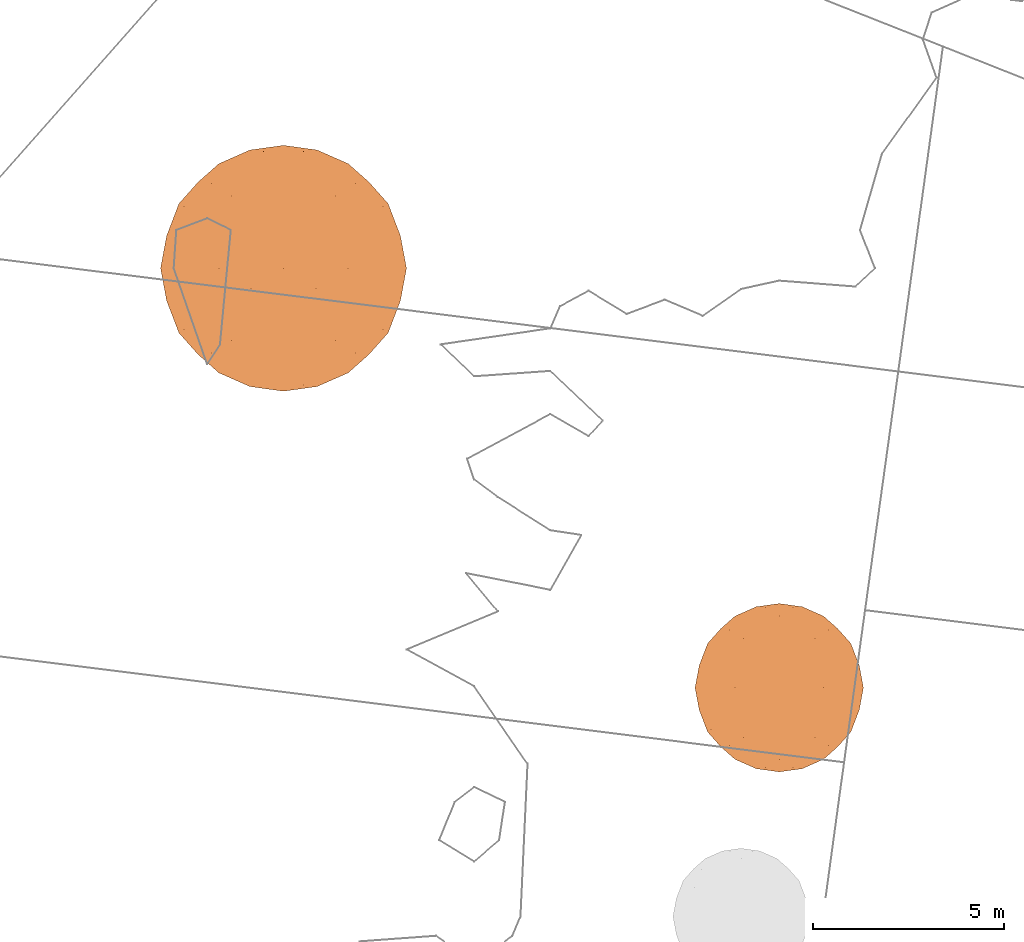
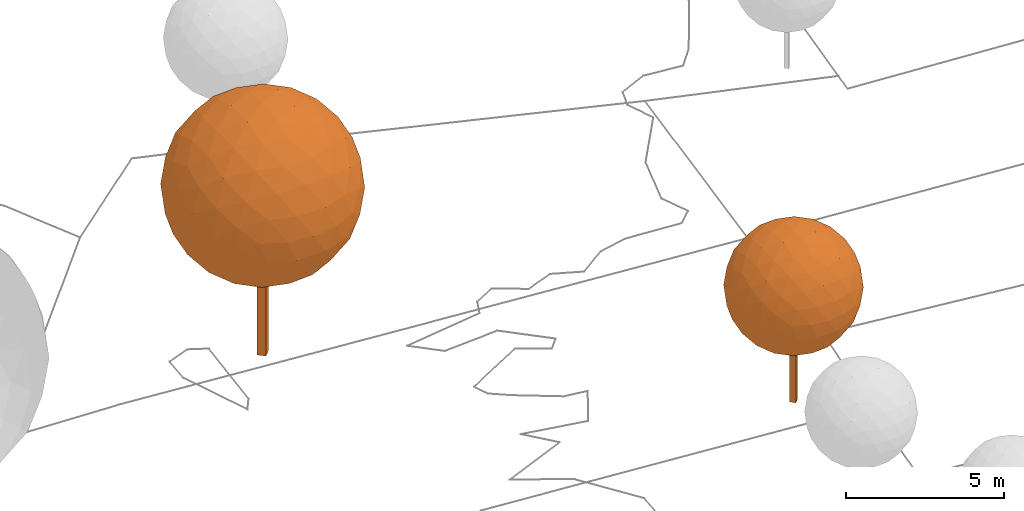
# Not in any storey, part 286 of 477: 2 geographic elements.
"""IFC4 model written with IfcOpenShell, lengths in metres."""

from ifc_helpers import new_model, si_unit, frame, origin_with_axes, place, context, subcontext, project, spatial, polygons, element, save


model = new_model("IFC4")

# Units and contexts
model_context = context("Model", 3, precision=1e-05, world=origin_with_axes())
body_context = subcontext(model_context, "Body", "Model", "MODEL_VIEW")
ifc_project = project(units=[si_unit("AREAUNIT", "SQUARE_METRE"), si_unit("LENGTHUNIT", "METRE")], contexts=[model_context])

# Sites
site_1_placement = place(None, origin_with_axes())
site_1 = spatial("IfcSite", under=ifc_project, at=site_1_placement, Name="Topoexport Site")
site_2_placement = place(site_1_placement, origin_with_axes())
site_2 = spatial("IfcSite", under=site_1, at=site_2_placement, Name="TPX_TREES")

# Geographic elements
geographic_element_1_placement = place(site_2_placement, frame((418.6777320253, 61.1707412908, 502.2394166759), z_axis=(0.0, 0.0, 1.0), x_axis=(1.0, 0.0, 0.0)))
element("IfcGeographicElement", 1, at=geographic_element_1_placement, inside=site_2, Name="Tree TR1 CD44", ObjectType="VEGETATION", PredefinedType="USERDEFINED", context=body_context, shape_type="Tessellation", body=[
    polygons([(0.0, -0.1405498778, 0.0), (-0.1405498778, 0.0, 0.0), (0.0, 0.1405498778, 0.0), (0.1405498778, 0.0, 0.0), (0.0, -0.1405498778, 4.4155046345), (-0.1405498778, 0.0, 4.4155046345), (0.0, 0.1405498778, 4.4155046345), (0.1405498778, 0.0, 4.4155046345)], [[[3, 4, 1]], [[1, 2, 3]], [[5, 8, 7]], [[7, 6, 5]], [[5, 6, 1]], [[1, 6, 2]], [[6, 7, 2]], [[2, 7, 3]], [[8, 5, 4]], [[4, 5, 1]], [[7, 8, 3]], [[3, 8, 4]]]),
    polygons([(-1.160684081, 1.8780262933, 4.4155046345), (1.160684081, 1.8780262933, 4.4155046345), (-1.160684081, -1.8780262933, 4.4155046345), (1.160684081, -1.8780262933, 4.4155046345), (0.0, -1.160684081, 6.2935309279), (0.0, 1.160684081, 6.2935309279), (0.0, -1.160684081, 2.5374783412), (0.0, 1.160684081, 2.5374783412), (1.8780262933, 0.0, 3.2548205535), (1.8780262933, 0.0, 5.5761887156), (-1.8780262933, 0.0, 3.2548205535), (-1.8780262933, 0.0, 5.5761887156), (0.0, 2.2077523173, 4.4155046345), (0.0, -2.2077523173, 4.4155046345), (-0.6822329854, -1.786109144, 5.5193807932), (0.6822329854, -1.786109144, 5.5193807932), (-0.6822329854, 1.786109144, 5.5193807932), (0.6822329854, 1.786109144, 5.5193807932), (0.0, 0.0, 6.6232569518), (-0.6822329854, -1.786109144, 3.3116284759), (0.6822329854, -1.786109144, 3.3116284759), (-0.6822329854, 1.786109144, 3.3116284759), (0.6822329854, 1.786109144, 3.3116284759), (0.0, 0.0, 2.2077523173), (1.786109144, 1.1038761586, 3.7332716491), (1.786109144, -1.1038761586, 3.7332716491), (1.1038761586, -0.6822329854, 2.6293954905), (1.1038761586, 0.6822329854, 2.6293954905), (1.786109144, 1.1038761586, 5.0977376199), (1.786109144, -1.1038761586, 5.0977376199), (1.1038761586, -0.6822329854, 6.2016137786), (1.1038761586, 0.6822329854, 6.2016137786), (2.2077523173, 0.0, 4.4155046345), (-1.786109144, 1.1038761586, 3.7332716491), (-1.786109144, -1.1038761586, 3.7332716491), (-1.1038761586, -0.6822329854, 2.6293954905), (-1.1038761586, 0.6822329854, 2.6293954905), (-1.786109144, 1.1038761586, 5.0977376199), (-1.786109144, -1.1038761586, 5.0977376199), (-1.1038761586, -0.6822329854, 6.2016137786), (-1.1038761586, 0.6822329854, 6.2016137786), (-2.2077523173, 0.0, 4.4155046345), (-0.6033048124, 2.1237216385, 4.4155046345), (0.6033048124, 2.1237216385, 4.4155046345), (-0.6033048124, -2.1237216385, 4.4155046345), (0.6033048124, -2.1237216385, 4.4155046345), (-0.9579184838, -1.9045583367, 4.9892816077), (-0.3546136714, -1.531695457, 5.9654492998), (-0.3586711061, -2.0996972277, 4.9958466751), (0.9579184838, -1.9045583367, 4.9892816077), (0.3546136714, -1.531695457, 5.9654492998), (0.3586711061, -2.0996972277, 4.9958466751), (0.0, -1.8780262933, 5.5761887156), (-0.9579184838, 1.9045583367, 4.9892816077), (-0.3546136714, 1.531695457, 5.9654492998), (-0.3586711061, 2.0996972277, 4.9958466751), (0.9579184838, 1.9045583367, 4.9892816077), (0.3546136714, 1.531695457, 5.9654492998), (0.3586711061, 2.0996972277, 4.9958466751), (0.0, 1.8780262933, 5.5761887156), (0.0, -0.6033048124, 6.539226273), (0.0, 0.6033048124, 6.539226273), (-0.9579184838, -1.9045583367, 3.8417276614), (-0.3546136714, -1.531695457, 2.8655599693), (-0.3586711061, -2.0996972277, 3.835162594), (0.9579184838, -1.9045583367, 3.8417276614), (0.3546136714, -1.531695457, 2.8655599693), (0.3586711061, -2.0996972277, 3.835162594), (0.0, -1.8780262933, 3.2548205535), (-0.9579184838, 1.9045583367, 3.8417276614), (-0.3546136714, 1.531695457, 2.8655599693), (-0.3586711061, 2.0996972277, 3.835162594), (0.9579184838, 1.9045583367, 3.8417276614), (0.3546136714, 1.531695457, 2.8655599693), (0.3586711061, 2.0996972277, 3.835162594), (0.0, 1.8780262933, 3.2548205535), (0.0, -0.6033048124, 2.2917829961), (0.0, 0.6033048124, 2.2917829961), (1.531695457, 1.5499446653, 4.0608909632), (1.9045583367, 0.5737769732, 3.4575861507), (1.2976842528, 1.5193551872, 3.4764914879), (1.531695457, -1.5499446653, 4.0608909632), (1.9045583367, -0.5737769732, 3.4575861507), (1.2976842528, -1.5193551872, 3.4764914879), (0.5737769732, -0.9579184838, 2.5109462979), (1.5499446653, -0.3546136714, 2.8838091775), (0.9390131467, -1.2976842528, 2.8961494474), (0.5803420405, -0.3586711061, 2.3158074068), (1.5193551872, -0.9390131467, 3.1178203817), (0.5737769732, 0.9579184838, 2.5109462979), (1.5499446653, 0.3546136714, 2.8838091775), (0.9390131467, 1.2976842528, 2.8961494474), (0.5803420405, 0.3586711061, 2.3158074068), (1.5193551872, 0.9390131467, 3.1178203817), (1.160684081, 0.0, 2.5374783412), (1.531695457, 1.5499446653, 4.7701183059), (1.9045583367, 0.5737769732, 5.3734231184), (1.2976842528, 1.5193551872, 5.3545177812), (1.8780262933, 1.160684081, 4.4155046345), (1.531695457, -1.5499446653, 4.7701183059), (1.9045583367, -0.5737769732, 5.3734231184), (1.2976842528, -1.5193551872, 5.3545177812), (1.8780262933, -1.160684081, 4.4155046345), (0.5737769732, -0.9579184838, 6.3200629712), (1.5499446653, -0.3546136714, 5.9472000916), (0.9390131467, -1.2976842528, 5.9348598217), (0.5803420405, -0.3586711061, 6.5152018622), (1.5193551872, -0.9390131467, 5.7131888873), (0.5737769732, 0.9579184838, 6.3200629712), (1.5499446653, 0.3546136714, 5.9472000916), (0.9390131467, 1.2976842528, 5.9348598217), (0.5803420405, 0.3586711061, 6.5152018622), (1.5193551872, 0.9390131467, 5.7131888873), (1.160684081, 0.0, 6.2935309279), (2.1237216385, 0.0, 3.8121998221), (2.1237216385, 0.0, 5.018809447), (2.0996972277, 0.5803420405, 4.0568335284), (2.0996972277, -0.5803420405, 4.0568335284), (2.0996972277, 0.5803420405, 4.7741757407), (2.0996972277, -0.5803420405, 4.7741757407), (-1.531695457, 1.5499446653, 4.0608909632), (-1.9045583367, 0.5737769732, 3.4575861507), (-1.2976842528, 1.5193551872, 3.4764914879), (-1.531695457, -1.5499446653, 4.0608909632), (-1.9045583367, -0.5737769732, 3.4575861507), (-1.2976842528, -1.5193551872, 3.4764914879), (-0.5737769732, -0.9579184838, 2.5109462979), (-1.5499446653, -0.3546136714, 2.8838091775), (-0.9390131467, -1.2976842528, 2.8961494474), (-0.5803420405, -0.3586711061, 2.3158074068), (-1.5193551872, -0.9390131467, 3.1178203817), (-0.5737769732, 0.9579184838, 2.5109462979), (-1.5499446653, 0.3546136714, 2.8838091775), (-0.9390131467, 1.2976842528, 2.8961494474), (-0.5803420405, 0.3586711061, 2.3158074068), (-1.5193551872, 0.9390131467, 3.1178203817), (-1.160684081, 0.0, 2.5374783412), (-1.531695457, 1.5499446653, 4.7701183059), (-1.9045583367, 0.5737769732, 5.3734231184), (-1.2976842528, 1.5193551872, 5.3545177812), (-1.8780262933, 1.160684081, 4.4155046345), (-1.531695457, -1.5499446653, 4.7701183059), (-1.9045583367, -0.5737769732, 5.3734231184), (-1.2976842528, -1.5193551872, 5.3545177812), (-1.8780262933, -1.160684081, 4.4155046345), (-0.5737769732, -0.9579184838, 6.3200629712), (-1.5499446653, -0.3546136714, 5.9472000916), (-0.9390131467, -1.2976842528, 5.9348598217), (-0.5803420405, -0.3586711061, 6.5152018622), (-1.5193551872, -0.9390131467, 5.7131888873), (-0.5737769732, 0.9579184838, 6.3200629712), (-1.5499446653, 0.3546136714, 5.9472000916), (-0.9390131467, 1.2976842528, 5.9348598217), (-0.5803420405, 0.3586711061, 6.5152018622), (-1.5193551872, 0.9390131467, 5.7131888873), (-1.160684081, 0.0, 6.2935309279), (-2.1237216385, 0.0, 3.8121998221), (-2.1237216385, 0.0, 5.018809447), (-2.0996972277, 0.5803420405, 4.0568335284), (-2.0996972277, -0.5803420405, 4.0568335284), (-2.0996972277, 0.5803420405, 4.7741757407), (-2.0996972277, -0.5803420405, 4.7741757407)], [[[1, 138, 54]], [[138, 38, 140]], [[54, 140, 17]], [[138, 140, 54]], [[38, 139, 155]], [[139, 12, 152]], [[155, 152, 41]], [[139, 152, 155]], [[17, 153, 55]], [[153, 41, 151]], [[55, 151, 6]], [[153, 151, 55]], [[38, 155, 140]], [[155, 41, 153]], [[140, 153, 17]], [[155, 153, 140]], [[1, 54, 43]], [[54, 17, 56]], [[43, 56, 13]], [[54, 56, 43]], [[17, 55, 60]], [[55, 6, 58]], [[60, 58, 18]], [[55, 58, 60]], [[13, 59, 44]], [[59, 18, 57]], [[44, 57, 2]], [[59, 57, 44]], [[17, 60, 56]], [[60, 18, 59]], [[56, 59, 13]], [[60, 59, 56]], [[1, 43, 70]], [[43, 13, 72]], [[70, 72, 22]], [[43, 72, 70]], [[13, 44, 75]], [[44, 2, 73]], [[75, 73, 23]], [[44, 73, 75]], [[22, 76, 71]], [[76, 23, 74]], [[71, 74, 8]], [[76, 74, 71]], [[13, 75, 72]], [[75, 23, 76]], [[72, 76, 22]], [[75, 76, 72]], [[1, 70, 121]], [[70, 22, 123]], [[121, 123, 34]], [[70, 123, 121]], [[22, 71, 134]], [[71, 8, 132]], [[134, 132, 37]], [[71, 132, 134]], [[34, 136, 122]], [[136, 37, 133]], [[122, 133, 11]], [[136, 133, 122]], [[22, 134, 123]], [[134, 37, 136]], [[123, 136, 34]], [[134, 136, 123]], [[1, 121, 138]], [[121, 34, 141]], [[138, 141, 38]], [[121, 141, 138]], [[34, 122, 159]], [[122, 11, 157]], [[159, 157, 42]], [[122, 157, 159]], [[38, 161, 139]], [[161, 42, 158]], [[139, 158, 12]], [[161, 158, 139]], [[34, 159, 141]], [[159, 42, 161]], [[141, 161, 38]], [[159, 161, 141]], [[2, 57, 96]], [[57, 18, 98]], [[96, 98, 29]], [[57, 98, 96]], [[18, 58, 111]], [[58, 6, 109]], [[111, 109, 32]], [[58, 109, 111]], [[29, 113, 97]], [[113, 32, 110]], [[97, 110, 10]], [[113, 110, 97]], [[18, 111, 98]], [[111, 32, 113]], [[98, 113, 29]], [[111, 113, 98]], [[6, 151, 62]], [[151, 41, 154]], [[62, 154, 19]], [[151, 154, 62]], [[41, 152, 156]], [[152, 12, 147]], [[156, 147, 40]], [[152, 147, 156]], [[19, 149, 61]], [[149, 40, 146]], [[61, 146, 5]], [[149, 146, 61]], [[41, 156, 154]], [[156, 40, 149]], [[154, 149, 19]], [[156, 149, 154]], [[12, 158, 143]], [[158, 42, 162]], [[143, 162, 39]], [[158, 162, 143]], [[42, 157, 160]], [[157, 11, 125]], [[160, 125, 35]], [[157, 125, 160]], [[39, 145, 142]], [[145, 35, 124]], [[142, 124, 3]], [[145, 124, 142]], [[42, 160, 162]], [[160, 35, 145]], [[162, 145, 39]], [[160, 145, 162]], [[11, 133, 128]], [[133, 37, 137]], [[128, 137, 36]], [[133, 137, 128]], [[37, 132, 135]], [[132, 8, 78]], [[135, 78, 24]], [[132, 78, 135]], [[36, 130, 127]], [[130, 24, 77]], [[127, 77, 7]], [[130, 77, 127]], [[37, 135, 137]], [[135, 24, 130]], [[137, 130, 36]], [[135, 130, 137]], [[8, 74, 90]], [[74, 23, 92]], [[90, 92, 28]], [[74, 92, 90]], [[23, 73, 81]], [[73, 2, 79]], [[81, 79, 25]], [[73, 79, 81]], [[28, 94, 91]], [[94, 25, 80]], [[91, 80, 9]], [[94, 80, 91]], [[23, 81, 92]], [[81, 25, 94]], [[92, 94, 28]], [[81, 94, 92]], [[4, 100, 50]], [[100, 30, 102]], [[50, 102, 16]], [[100, 102, 50]], [[30, 101, 108]], [[101, 10, 105]], [[108, 105, 31]], [[101, 105, 108]], [[16, 106, 51]], [[106, 31, 104]], [[51, 104, 5]], [[106, 104, 51]], [[30, 108, 102]], [[108, 31, 106]], [[102, 106, 16]], [[108, 106, 102]], [[4, 50, 46]], [[50, 16, 52]], [[46, 52, 14]], [[50, 52, 46]], [[16, 51, 53]], [[51, 5, 48]], [[53, 48, 15]], [[51, 48, 53]], [[14, 49, 45]], [[49, 15, 47]], [[45, 47, 3]], [[49, 47, 45]], [[16, 53, 52]], [[53, 15, 49]], [[52, 49, 14]], [[53, 49, 52]], [[4, 46, 66]], [[46, 14, 68]], [[66, 68, 21]], [[46, 68, 66]], [[14, 45, 65]], [[45, 3, 63]], [[65, 63, 20]], [[45, 63, 65]], [[21, 69, 67]], [[69, 20, 64]], [[67, 64, 7]], [[69, 64, 67]], [[14, 65, 68]], [[65, 20, 69]], [[68, 69, 21]], [[65, 69, 68]], [[4, 66, 82]], [[66, 21, 84]], [[82, 84, 26]], [[66, 84, 82]], [[21, 67, 87]], [[67, 7, 85]], [[87, 85, 27]], [[67, 85, 87]], [[26, 89, 83]], [[89, 27, 86]], [[83, 86, 9]], [[89, 86, 83]], [[21, 87, 84]], [[87, 27, 89]], [[84, 89, 26]], [[87, 89, 84]], [[4, 82, 100]], [[82, 26, 103]], [[100, 103, 30]], [[82, 103, 100]], [[26, 83, 118]], [[83, 9, 115]], [[118, 115, 33]], [[83, 115, 118]], [[30, 120, 101]], [[120, 33, 116]], [[101, 116, 10]], [[120, 116, 101]], [[26, 118, 103]], [[118, 33, 120]], [[103, 120, 30]], [[118, 120, 103]], [[5, 104, 61]], [[104, 31, 107]], [[61, 107, 19]], [[104, 107, 61]], [[31, 105, 114]], [[105, 10, 110]], [[114, 110, 32]], [[105, 110, 114]], [[19, 112, 62]], [[112, 32, 109]], [[62, 109, 6]], [[112, 109, 62]], [[31, 114, 107]], [[114, 32, 112]], [[107, 112, 19]], [[114, 112, 107]], [[3, 47, 142]], [[47, 15, 144]], [[142, 144, 39]], [[47, 144, 142]], [[15, 48, 148]], [[48, 5, 146]], [[148, 146, 40]], [[48, 146, 148]], [[39, 150, 143]], [[150, 40, 147]], [[143, 147, 12]], [[150, 147, 143]], [[15, 148, 144]], [[148, 40, 150]], [[144, 150, 39]], [[148, 150, 144]], [[7, 64, 127]], [[64, 20, 129]], [[127, 129, 36]], [[64, 129, 127]], [[20, 63, 126]], [[63, 3, 124]], [[126, 124, 35]], [[63, 124, 126]], [[36, 131, 128]], [[131, 35, 125]], [[128, 125, 11]], [[131, 125, 128]], [[20, 126, 129]], [[126, 35, 131]], [[129, 131, 36]], [[126, 131, 129]], [[9, 86, 91]], [[86, 27, 95]], [[91, 95, 28]], [[86, 95, 91]], [[27, 85, 88]], [[85, 7, 77]], [[88, 77, 24]], [[85, 77, 88]], [[28, 93, 90]], [[93, 24, 78]], [[90, 78, 8]], [[93, 78, 90]], [[27, 88, 95]], [[88, 24, 93]], [[95, 93, 28]], [[88, 93, 95]], [[10, 116, 97]], [[116, 33, 119]], [[97, 119, 29]], [[116, 119, 97]], [[33, 115, 117]], [[115, 9, 80]], [[117, 80, 25]], [[115, 80, 117]], [[29, 99, 96]], [[99, 25, 79]], [[96, 79, 2]], [[99, 79, 96]], [[33, 117, 119]], [[117, 25, 99]], [[119, 99, 29]], [[117, 99, 119]]]),
])
geographic_element_2_placement = place(site_2_placement, frame((405.6777320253, 72.1707409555, 501.9603647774), z_axis=(0.0, 0.0, 1.0), x_axis=(1.0, 0.0, 0.0)))
element("IfcGeographicElement", 2, at=geographic_element_2_placement, inside=site_2, Name="Tree TR2 CD64", ObjectType="VEGETATION", PredefinedType="USERDEFINED", context=body_context, shape_type="Tessellation", body=[
    polygons([(0.0, -0.2052875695, 0.0), (-0.2052875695, 0.0, 0.0), (0.0, 0.2052875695, 0.0), (0.2052875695, 0.0, 0.0), (0.0, -0.2052875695, 6.4492992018), (-0.2052875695, 0.0, 6.4492992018), (0.0, 0.2052875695, 6.4492992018), (0.2052875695, 0.0, 6.4492992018)], [[[3, 4, 1]], [[1, 2, 3]], [[5, 8, 7]], [[7, 6, 5]], [[5, 6, 1]], [[1, 6, 2]], [[6, 7, 2]], [[2, 7, 3]], [[8, 5, 4]], [[4, 5, 1]], [[7, 8, 3]], [[3, 8, 4]]]),
    polygons([(-1.6952986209, 2.7430507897, 6.4492992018), (1.6952986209, 2.7430507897, 6.4492992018), (-1.6952986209, -2.7430507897, 6.4492992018), (1.6952986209, -2.7430507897, 6.4492992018), (0.0, -1.6952986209, 9.1923499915), (0.0, 1.6952986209, 9.1923499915), (0.0, -1.6952986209, 3.7062484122), (0.0, 1.6952986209, 3.7062484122), (2.7430507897, 0.0, 4.754000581), (2.7430507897, 0.0, 8.1445978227), (-2.7430507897, 0.0, 4.754000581), (-2.7430507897, 0.0, 8.1445978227), (0.0, 3.2246496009, 6.4492992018), (0.0, -3.2246496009, 6.4492992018), (-0.9964715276, -2.608796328, 8.0616240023), (0.9964715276, -2.608796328, 8.0616240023), (-0.9964715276, 2.608796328, 8.0616240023), (0.9964715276, 2.608796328, 8.0616240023), (0.0, 0.0, 9.6739488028), (-0.9964715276, -2.608796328, 4.8369744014), (0.9964715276, -2.608796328, 4.8369744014), (-0.9964715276, 2.608796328, 4.8369744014), (0.9964715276, 2.608796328, 4.8369744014), (0.0, 0.0, 3.2246496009), (2.608796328, 1.6123248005, 5.4528276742), (2.608796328, -1.6123248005, 5.4528276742), (1.6123248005, -0.9964715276, 3.8405028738), (1.6123248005, 0.9964715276, 3.8405028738), (2.608796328, 1.6123248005, 7.4457707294), (2.608796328, -1.6123248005, 7.4457707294), (1.6123248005, -0.9964715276, 9.0580955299), (1.6123248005, 0.9964715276, 9.0580955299), (3.2246496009, 0.0, 6.4492992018), (-2.608796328, 1.6123248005, 5.4528276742), (-2.608796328, -1.6123248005, 5.4528276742), (-1.6123248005, -0.9964715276, 3.8405028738), (-1.6123248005, 0.9964715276, 3.8405028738), (-2.608796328, 1.6123248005, 7.4457707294), (-2.608796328, -1.6123248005, 7.4457707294), (-1.6123248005, -0.9964715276, 9.0580955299), (-1.6123248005, 0.9964715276, 9.0580955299), (-3.2246496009, 0.0, 6.4492992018), (-0.8811888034, 3.1019141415, 6.4492992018), (0.8811888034, 3.1019141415, 6.4492992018), (-0.8811888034, -3.1019141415, 6.4492992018), (0.8811888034, -3.1019141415, 6.4492992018), (-1.3991385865, -2.7818035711, 7.2873595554), (-0.5179497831, -2.2371989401, 8.7131529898), (-0.5238760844, -3.0668240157, 7.2969485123), (1.3991385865, -2.7818035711, 7.2873595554), (0.5179497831, -2.2371989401, 8.7131529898), (0.5238760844, -3.0668240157, 7.2969485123), (0.0, -2.7430507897, 8.1445978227), (-1.3991385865, 2.7818035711, 7.2873595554), (-0.5179497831, 2.2371989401, 8.7131529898), (-0.5238760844, 3.0668240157, 7.2969485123), (1.3991385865, 2.7818035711, 7.2873595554), (0.5179497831, 2.2371989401, 8.7131529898), (0.5238760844, 3.0668240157, 7.2969485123), (0.0, 2.7430507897, 8.1445978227), (0.0, -0.8811888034, 9.5512133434), (0.0, 0.8811888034, 9.5512133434), (-1.3991385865, -2.7818035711, 5.6112388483), (-0.5179497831, -2.2371989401, 4.1854454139), (-0.5238760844, -3.0668240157, 5.6016498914), (1.3991385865, -2.7818035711, 5.6112388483), (0.5179497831, -2.2371989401, 4.1854454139), (0.5238760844, -3.0668240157, 5.6016498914), (0.0, -2.7430507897, 4.754000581), (-1.3991385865, 2.7818035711, 5.6112388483), (-0.5179497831, 2.2371989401, 4.1854454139), (-0.5238760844, 3.0668240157, 5.6016498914), (1.3991385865, 2.7818035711, 5.6112388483), (0.5179497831, 2.2371989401, 4.1854454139), (0.5238760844, 3.0668240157, 5.6016498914), (0.0, 2.7430507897, 4.754000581), (0.0, -0.8811888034, 3.3473850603), (0.0, 0.8811888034, 3.3473850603), (2.2371989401, 2.263853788, 5.9313494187), (2.7818035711, 0.8380603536, 5.0501606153), (1.8954014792, 2.2191747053, 5.077773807), (2.2371989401, -2.263853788, 5.9313494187), (2.7818035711, -0.8380603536, 5.0501606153), (1.8954014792, -2.2191747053, 5.077773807), (0.8380603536, -1.3991385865, 3.6674956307), (2.263853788, -0.5179497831, 4.2121002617), (1.3715253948, -1.8954014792, 4.2301244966), (0.8476493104, -0.5238760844, 3.3824751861), (2.2191747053, -1.3715253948, 4.5538977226), (0.8380603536, 1.3991385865, 3.6674956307), (2.263853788, 0.5179497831, 4.2121002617), (1.3715253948, 1.8954014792, 4.2301244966), (0.8476493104, 0.5238760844, 3.3824751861), (2.2191747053, 1.3715253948, 4.5538977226), (1.6952986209, 0.0, 3.7062484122), (2.2371989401, 2.263853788, 6.967248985), (2.7818035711, 0.8380603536, 7.8484377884), (1.8954014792, 2.2191747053, 7.8208245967), (2.7430507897, 1.6952986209, 6.4492992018), (2.2371989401, -2.263853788, 6.967248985), (2.7818035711, -0.8380603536, 7.8484377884), (1.8954014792, -2.2191747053, 7.8208245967), (2.7430507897, -1.6952986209, 6.4492992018), (0.8380603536, -1.3991385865, 9.2311027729), (2.263853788, -0.5179497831, 8.6864981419), (1.3715253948, -1.8954014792, 8.6684739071), (0.8476493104, -0.5238760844, 9.5161232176), (2.2191747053, -1.3715253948, 8.3447006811), (0.8380603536, 1.3991385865, 9.2311027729), (2.263853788, 0.5179497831, 8.6864981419), (1.3715253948, 1.8954014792, 8.6684739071), (0.8476493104, 0.5238760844, 9.5161232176), (2.2191747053, 1.3715253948, 8.3447006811), (1.6952986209, 0.0, 9.1923499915), (3.1019141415, 0.0, 5.5681103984), (3.1019141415, 0.0, 7.3304880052), (3.0668240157, 0.8476493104, 5.9254231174), (3.0668240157, -0.8476493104, 5.9254231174), (3.0668240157, 0.8476493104, 6.9731752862), (3.0668240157, -0.8476493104, 6.9731752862), (-2.2371989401, 2.263853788, 5.9313494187), (-2.7818035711, 0.8380603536, 5.0501606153), (-1.8954014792, 2.2191747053, 5.077773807), (-2.2371989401, -2.263853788, 5.9313494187), (-2.7818035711, -0.8380603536, 5.0501606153), (-1.8954014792, -2.2191747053, 5.077773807), (-0.8380603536, -1.3991385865, 3.6674956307), (-2.263853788, -0.5179497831, 4.2121002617), (-1.3715253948, -1.8954014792, 4.2301244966), (-0.8476493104, -0.5238760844, 3.3824751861), (-2.2191747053, -1.3715253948, 4.5538977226), (-0.8380603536, 1.3991385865, 3.6674956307), (-2.263853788, 0.5179497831, 4.2121002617), (-1.3715253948, 1.8954014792, 4.2301244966), (-0.8476493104, 0.5238760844, 3.3824751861), (-2.2191747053, 1.3715253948, 4.5538977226), (-1.6952986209, 0.0, 3.7062484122), (-2.2371989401, 2.263853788, 6.967248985), (-2.7818035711, 0.8380603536, 7.8484377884), (-1.8954014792, 2.2191747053, 7.8208245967), (-2.7430507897, 1.6952986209, 6.4492992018), (-2.2371989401, -2.263853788, 6.967248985), (-2.7818035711, -0.8380603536, 7.8484377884), (-1.8954014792, -2.2191747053, 7.8208245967), (-2.7430507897, -1.6952986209, 6.4492992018), (-0.8380603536, -1.3991385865, 9.2311027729), (-2.263853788, -0.5179497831, 8.6864981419), (-1.3715253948, -1.8954014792, 8.6684739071), (-0.8476493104, -0.5238760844, 9.5161232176), (-2.2191747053, -1.3715253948, 8.3447006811), (-0.8380603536, 1.3991385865, 9.2311027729), (-2.263853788, 0.5179497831, 8.6864981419), (-1.3715253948, 1.8954014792, 8.6684739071), (-0.8476493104, 0.5238760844, 9.5161232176), (-2.2191747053, 1.3715253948, 8.3447006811), (-1.6952986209, 0.0, 9.1923499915), (-3.1019141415, 0.0, 5.5681103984), (-3.1019141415, 0.0, 7.3304880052), (-3.0668240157, 0.8476493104, 5.9254231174), (-3.0668240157, -0.8476493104, 5.9254231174), (-3.0668240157, 0.8476493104, 6.9731752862), (-3.0668240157, -0.8476493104, 6.9731752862)], [[[1, 138, 54]], [[138, 38, 140]], [[54, 140, 17]], [[138, 140, 54]], [[38, 139, 155]], [[139, 12, 152]], [[155, 152, 41]], [[139, 152, 155]], [[17, 153, 55]], [[153, 41, 151]], [[55, 151, 6]], [[153, 151, 55]], [[38, 155, 140]], [[155, 41, 153]], [[140, 153, 17]], [[155, 153, 140]], [[1, 54, 43]], [[54, 17, 56]], [[43, 56, 13]], [[54, 56, 43]], [[17, 55, 60]], [[55, 6, 58]], [[60, 58, 18]], [[55, 58, 60]], [[13, 59, 44]], [[59, 18, 57]], [[44, 57, 2]], [[59, 57, 44]], [[17, 60, 56]], [[60, 18, 59]], [[56, 59, 13]], [[60, 59, 56]], [[1, 43, 70]], [[43, 13, 72]], [[70, 72, 22]], [[43, 72, 70]], [[13, 44, 75]], [[44, 2, 73]], [[75, 73, 23]], [[44, 73, 75]], [[22, 76, 71]], [[76, 23, 74]], [[71, 74, 8]], [[76, 74, 71]], [[13, 75, 72]], [[75, 23, 76]], [[72, 76, 22]], [[75, 76, 72]], [[1, 70, 121]], [[70, 22, 123]], [[121, 123, 34]], [[70, 123, 121]], [[22, 71, 134]], [[71, 8, 132]], [[134, 132, 37]], [[71, 132, 134]], [[34, 136, 122]], [[136, 37, 133]], [[122, 133, 11]], [[136, 133, 122]], [[22, 134, 123]], [[134, 37, 136]], [[123, 136, 34]], [[134, 136, 123]], [[1, 121, 138]], [[121, 34, 141]], [[138, 141, 38]], [[121, 141, 138]], [[34, 122, 159]], [[122, 11, 157]], [[159, 157, 42]], [[122, 157, 159]], [[38, 161, 139]], [[161, 42, 158]], [[139, 158, 12]], [[161, 158, 139]], [[34, 159, 141]], [[159, 42, 161]], [[141, 161, 38]], [[159, 161, 141]], [[2, 57, 96]], [[57, 18, 98]], [[96, 98, 29]], [[57, 98, 96]], [[18, 58, 111]], [[58, 6, 109]], [[111, 109, 32]], [[58, 109, 111]], [[29, 113, 97]], [[113, 32, 110]], [[97, 110, 10]], [[113, 110, 97]], [[18, 111, 98]], [[111, 32, 113]], [[98, 113, 29]], [[111, 113, 98]], [[6, 151, 62]], [[151, 41, 154]], [[62, 154, 19]], [[151, 154, 62]], [[41, 152, 156]], [[152, 12, 147]], [[156, 147, 40]], [[152, 147, 156]], [[19, 149, 61]], [[149, 40, 146]], [[61, 146, 5]], [[149, 146, 61]], [[41, 156, 154]], [[156, 40, 149]], [[154, 149, 19]], [[156, 149, 154]], [[12, 158, 143]], [[158, 42, 162]], [[143, 162, 39]], [[158, 162, 143]], [[42, 157, 160]], [[157, 11, 125]], [[160, 125, 35]], [[157, 125, 160]], [[39, 145, 142]], [[145, 35, 124]], [[142, 124, 3]], [[145, 124, 142]], [[42, 160, 162]], [[160, 35, 145]], [[162, 145, 39]], [[160, 145, 162]], [[11, 133, 128]], [[133, 37, 137]], [[128, 137, 36]], [[133, 137, 128]], [[37, 132, 135]], [[132, 8, 78]], [[135, 78, 24]], [[132, 78, 135]], [[36, 130, 127]], [[130, 24, 77]], [[127, 77, 7]], [[130, 77, 127]], [[37, 135, 137]], [[135, 24, 130]], [[137, 130, 36]], [[135, 130, 137]], [[8, 74, 90]], [[74, 23, 92]], [[90, 92, 28]], [[74, 92, 90]], [[23, 73, 81]], [[73, 2, 79]], [[81, 79, 25]], [[73, 79, 81]], [[28, 94, 91]], [[94, 25, 80]], [[91, 80, 9]], [[94, 80, 91]], [[23, 81, 92]], [[81, 25, 94]], [[92, 94, 28]], [[81, 94, 92]], [[4, 100, 50]], [[100, 30, 102]], [[50, 102, 16]], [[100, 102, 50]], [[30, 101, 108]], [[101, 10, 105]], [[108, 105, 31]], [[101, 105, 108]], [[16, 106, 51]], [[106, 31, 104]], [[51, 104, 5]], [[106, 104, 51]], [[30, 108, 102]], [[108, 31, 106]], [[102, 106, 16]], [[108, 106, 102]], [[4, 50, 46]], [[50, 16, 52]], [[46, 52, 14]], [[50, 52, 46]], [[16, 51, 53]], [[51, 5, 48]], [[53, 48, 15]], [[51, 48, 53]], [[14, 49, 45]], [[49, 15, 47]], [[45, 47, 3]], [[49, 47, 45]], [[16, 53, 52]], [[53, 15, 49]], [[52, 49, 14]], [[53, 49, 52]], [[4, 46, 66]], [[46, 14, 68]], [[66, 68, 21]], [[46, 68, 66]], [[14, 45, 65]], [[45, 3, 63]], [[65, 63, 20]], [[45, 63, 65]], [[21, 69, 67]], [[69, 20, 64]], [[67, 64, 7]], [[69, 64, 67]], [[14, 65, 68]], [[65, 20, 69]], [[68, 69, 21]], [[65, 69, 68]], [[4, 66, 82]], [[66, 21, 84]], [[82, 84, 26]], [[66, 84, 82]], [[21, 67, 87]], [[67, 7, 85]], [[87, 85, 27]], [[67, 85, 87]], [[26, 89, 83]], [[89, 27, 86]], [[83, 86, 9]], [[89, 86, 83]], [[21, 87, 84]], [[87, 27, 89]], [[84, 89, 26]], [[87, 89, 84]], [[4, 82, 100]], [[82, 26, 103]], [[100, 103, 30]], [[82, 103, 100]], [[26, 83, 118]], [[83, 9, 115]], [[118, 115, 33]], [[83, 115, 118]], [[30, 120, 101]], [[120, 33, 116]], [[101, 116, 10]], [[120, 116, 101]], [[26, 118, 103]], [[118, 33, 120]], [[103, 120, 30]], [[118, 120, 103]], [[5, 104, 61]], [[104, 31, 107]], [[61, 107, 19]], [[104, 107, 61]], [[31, 105, 114]], [[105, 10, 110]], [[114, 110, 32]], [[105, 110, 114]], [[19, 112, 62]], [[112, 32, 109]], [[62, 109, 6]], [[112, 109, 62]], [[31, 114, 107]], [[114, 32, 112]], [[107, 112, 19]], [[114, 112, 107]], [[3, 47, 142]], [[47, 15, 144]], [[142, 144, 39]], [[47, 144, 142]], [[15, 48, 148]], [[48, 5, 146]], [[148, 146, 40]], [[48, 146, 148]], [[39, 150, 143]], [[150, 40, 147]], [[143, 147, 12]], [[150, 147, 143]], [[15, 148, 144]], [[148, 40, 150]], [[144, 150, 39]], [[148, 150, 144]], [[7, 64, 127]], [[64, 20, 129]], [[127, 129, 36]], [[64, 129, 127]], [[20, 63, 126]], [[63, 3, 124]], [[126, 124, 35]], [[63, 124, 126]], [[36, 131, 128]], [[131, 35, 125]], [[128, 125, 11]], [[131, 125, 128]], [[20, 126, 129]], [[126, 35, 131]], [[129, 131, 36]], [[126, 131, 129]], [[9, 86, 91]], [[86, 27, 95]], [[91, 95, 28]], [[86, 95, 91]], [[27, 85, 88]], [[85, 7, 77]], [[88, 77, 24]], [[85, 77, 88]], [[28, 93, 90]], [[93, 24, 78]], [[90, 78, 8]], [[93, 78, 90]], [[27, 88, 95]], [[88, 24, 93]], [[95, 93, 28]], [[88, 93, 95]], [[10, 116, 97]], [[116, 33, 119]], [[97, 119, 29]], [[116, 119, 97]], [[33, 115, 117]], [[115, 9, 80]], [[117, 80, 25]], [[115, 80, 117]], [[29, 99, 96]], [[99, 25, 79]], [[96, 79, 2]], [[99, 79, 96]], [[33, 117, 119]], [[117, 25, 99]], [[119, 99, 29]], [[117, 99, 119]]]),
])

save(model, "model.ifc")
